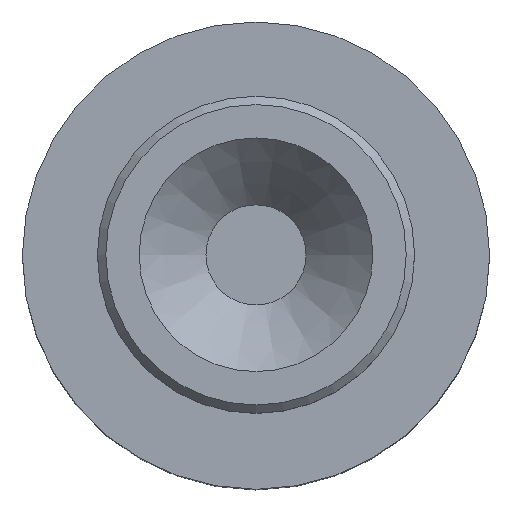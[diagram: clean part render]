
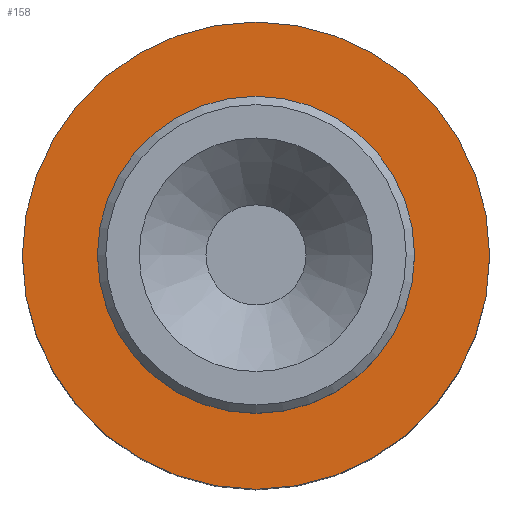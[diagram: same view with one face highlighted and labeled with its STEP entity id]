
A CAD part, top view. The second image highlights one B-rep face of the part: STEP entity #158.
In plain terms, the highlighted planar face has unit normal (0, 0, 1).
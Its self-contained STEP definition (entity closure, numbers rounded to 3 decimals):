
#24 = VERTEX_POINT('',#25);
#25 = CARTESIAN_POINT('',(14.,0.,-22.));
#32 = CYLINDRICAL_SURFACE('',#33,14.);
#33 = AXIS2_PLACEMENT_3D('',#34,#35,#36);
#34 = CARTESIAN_POINT('',(0.,0.,-47.));
#35 = DIRECTION('',(-0.,-0.,-1.));
#36 = DIRECTION('',(1.,0.,0.));
#51 = EDGE_CURVE('',#24,#24,#52,.T.);
#52 = SURFACE_CURVE('',#53,(#58,#65),.PCURVE_S1.);
#53 = CIRCLE('',#54,14.);
#54 = AXIS2_PLACEMENT_3D('',#55,#56,#57);
#55 = CARTESIAN_POINT('',(0.,0.,-22.));
#56 = DIRECTION('',(0.,0.,1.));
#57 = DIRECTION('',(1.,0.,0.));
#58 = PCURVE('',#32,#59);
#59 = DEFINITIONAL_REPRESENTATION('',(#60),#64);
#60 = LINE('',#61,#62);
#61 = CARTESIAN_POINT('',(-0.,-25.));
#62 = VECTOR('',#63,1.);
#63 = DIRECTION('',(-1.,0.));
#64 = ( GEOMETRIC_REPRESENTATION_CONTEXT(2) 
PARAMETRIC_REPRESENTATION_CONTEXT() REPRESENTATION_CONTEXT('2D SPACE',''
  ) );
#65 = PCURVE('',#66,#71);
#66 = PLANE('',#67);
#67 = AXIS2_PLACEMENT_3D('',#68,#69,#70);
#68 = CARTESIAN_POINT('',(0.,0.,-22.)
  );
#69 = DIRECTION('',(0.,0.,1.));
#70 = DIRECTION('',(1.,0.,-0.));
#71 = DEFINITIONAL_REPRESENTATION('',(#72),#76);
#72 = CIRCLE('',#73,14.);
#73 = AXIS2_PLACEMENT_2D('',#74,#75);
#74 = CARTESIAN_POINT('',(0.,0.));
#75 = DIRECTION('',(1.,0.));
#76 = ( GEOMETRIC_REPRESENTATION_CONTEXT(2) 
PARAMETRIC_REPRESENTATION_CONTEXT() REPRESENTATION_CONTEXT('2D SPACE',''
  ) );
#158 = ADVANCED_FACE('',(#159,#162),#66,.T.);
#159 = FACE_BOUND('',#160,.T.);
#160 = EDGE_LOOP('',(#161));
#161 = ORIENTED_EDGE('',*,*,#51,.T.);
#162 = FACE_BOUND('',#163,.T.);
#163 = EDGE_LOOP('',(#164));
#164 = ORIENTED_EDGE('',*,*,#165,.T.);
#165 = EDGE_CURVE('',#166,#166,#168,.T.);
#166 = VERTEX_POINT('',#167);
#167 = CARTESIAN_POINT('',(2.,0.,-22.));
#168 = SURFACE_CURVE('',#169,(#174,#185),.PCURVE_S1.);
#169 = CIRCLE('',#170,2.);
#170 = AXIS2_PLACEMENT_3D('',#171,#172,#173);
#171 = CARTESIAN_POINT('',(0.,0.,-22.));
#172 = DIRECTION('',(0.,0.,-1.));
#173 = DIRECTION('',(1.,0.,0.));
#174 = PCURVE('',#66,#175);
#175 = DEFINITIONAL_REPRESENTATION('',(#176),#184);
#176 = ( BOUNDED_CURVE() B_SPLINE_CURVE(2,(#177,#178,#179,#180,#181,#182
,#183),.UNSPECIFIED.,.T.,.F.) B_SPLINE_CURVE_WITH_KNOTS((1,2,2,2,2,1),(
    -2.094,0.,2.094,4.189,6.283,
8.378),.UNSPECIFIED.) CURVE() GEOMETRIC_REPRESENTATION_ITEM() 
RATIONAL_B_SPLINE_CURVE((1.,0.5,1.,0.5,1.,0.5,1.)) REPRESENTATION_ITEM(
  '') );
#177 = CARTESIAN_POINT('',(2.,0.));
#178 = CARTESIAN_POINT('',(2.,-3.464));
#179 = CARTESIAN_POINT('',(-1.,-1.732));
#180 = CARTESIAN_POINT('',(-4.,0.));
#181 = CARTESIAN_POINT('',(-1.,1.732));
#182 = CARTESIAN_POINT('',(2.,3.464));
#183 = CARTESIAN_POINT('',(2.,0.));
#184 = ( GEOMETRIC_REPRESENTATION_CONTEXT(2) 
PARAMETRIC_REPRESENTATION_CONTEXT() REPRESENTATION_CONTEXT('2D SPACE',''
  ) );
#185 = PCURVE('',#186,#191);
#186 = CYLINDRICAL_SURFACE('',#187,2.);
#187 = AXIS2_PLACEMENT_3D('',#188,#189,#190);
#188 = CARTESIAN_POINT('',(0.,0.,-22.5));
#189 = DIRECTION('',(-0.,-0.,-1.));
#190 = DIRECTION('',(1.,0.,0.));
#191 = DEFINITIONAL_REPRESENTATION('',(#192),#196);
#192 = LINE('',#193,#194);
#193 = CARTESIAN_POINT('',(-6.283,-0.5));
#194 = VECTOR('',#195,1.);
#195 = DIRECTION('',(1.,-0.));
#196 = ( GEOMETRIC_REPRESENTATION_CONTEXT(2) 
PARAMETRIC_REPRESENTATION_CONTEXT() REPRESENTATION_CONTEXT('2D SPACE',''
  ) );
